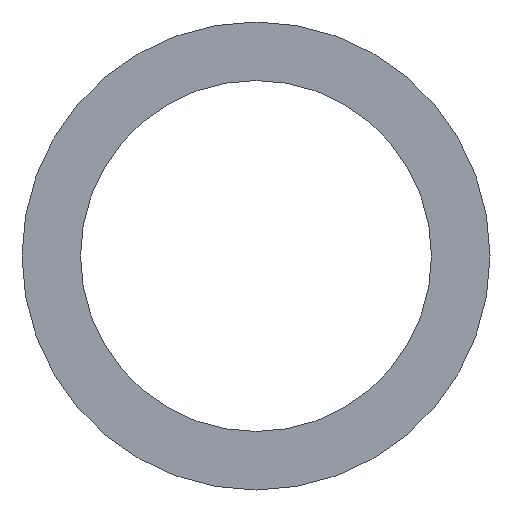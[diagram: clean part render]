
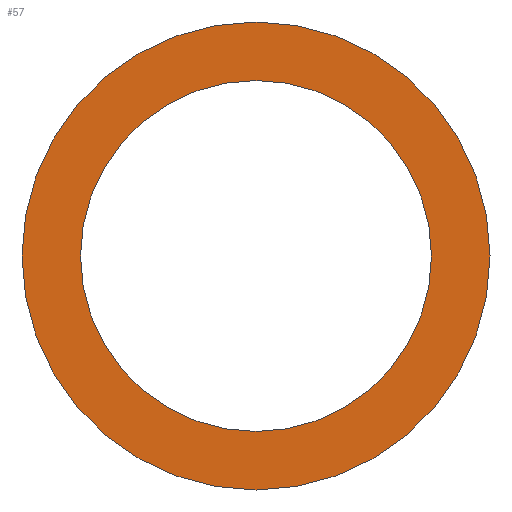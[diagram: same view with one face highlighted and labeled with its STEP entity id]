
A CAD part, left-side view. The second image highlights one B-rep face of the part: STEP entity #57.
In plain terms, the highlighted planar face has unit normal (-1, 0, 0).
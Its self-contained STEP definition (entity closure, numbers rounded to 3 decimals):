
#19=FACE_BOUND('',#30,.T.);
#23=FACE_OUTER_BOUND('',#29,.T.);
#29=EDGE_LOOP('',(#49));
#30=EDGE_LOOP('',(#50));
#35=CIRCLE('',#65,37.5);
#36=CIRCLE('',#67,50.);
#39=VERTEX_POINT('',#94);
#40=VERTEX_POINT('',#97);
#43=EDGE_CURVE('',#39,#39,#35,.T.);
#44=EDGE_CURVE('',#40,#40,#36,.T.);
#49=ORIENTED_EDGE('',*,*,#44,.F.);
#50=ORIENTED_EDGE('',*,*,#43,.T.);
#54=PLANE('',#66);
#57=ADVANCED_FACE('',(#23,#19),#54,.T.);
#65=AXIS2_PLACEMENT_3D('',#95,#79,#80);
#66=AXIS2_PLACEMENT_3D('',#96,#81,#82);
#67=AXIS2_PLACEMENT_3D('',#98,#83,#84);
#79=DIRECTION('center_axis',(1.,0.,0.));
#80=DIRECTION('ref_axis',(0.,0.,-1.));
#81=DIRECTION('center_axis',(-1.,0.,0.));
#82=DIRECTION('ref_axis',(0.,0.,1.));
#83=DIRECTION('center_axis',(1.,0.,0.));
#84=DIRECTION('ref_axis',(0.,0.,-1.));
#94=CARTESIAN_POINT('',(0.,37.5,0.));
#95=CARTESIAN_POINT('Origin',(0.,0.,0.));
#96=CARTESIAN_POINT('Origin',(0.,50.,0.));
#97=CARTESIAN_POINT('',(0.,50.,0.));
#98=CARTESIAN_POINT('Origin',(0.,0.,0.));
